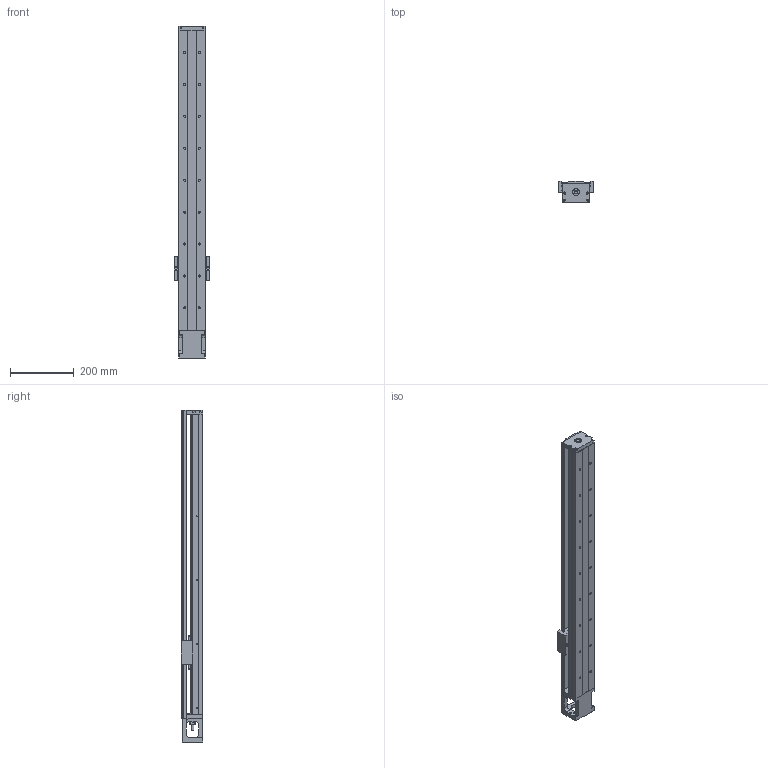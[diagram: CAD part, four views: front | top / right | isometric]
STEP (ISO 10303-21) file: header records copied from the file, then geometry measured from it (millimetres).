
FILE_DESCRIPTION(/* description */ (''),/* implementation_level */ '2;1');
FILE_NAME(/* name */ '46L-940C.stp',/* time_stamp */ '2016-12-20T14:02:58+08:00',/* author */ (''),/* organization */ (''),/* preprocessor_version */ 'ST-DEVELOPER v11',/* originating_system */ 'SIEMENS UGS NX 6.0',/* authorisation */ '');
FILE_SCHEMA (('AUTOMOTIVE_DESIGN { 1 0 10303 214 1 1 1 1 }'));
Length unit declared in the file: millimetre
Products named in the file (1): model4
Bounding box: 112 x 68 x 1040 mm (x, y, z)
Volume: 2606743.1 mm3; surface area: 645246.5 mm2
Topology: 7 solids, 15 shells, 745 faces, 1964 edges, 1289 vertices
Faces by surface type: plane 346, cylinder 277, cone 61, bspline 53, torus 8
Full cylindrical faces by diameter (mm): 2.11 x4, 2.15 x8, 2.42 x8, 2.5 x4, 3 x6, 3.2 x4, 3.3 x12, 3.4 x4, 4 x4, 4.2 x4, 4.5 x8, 5 x14, 6 x8, 6.35 x2, 6.6 x18, 8 x1, 9.6 x1, 10 x3, 11 x18, 12 x1, 14.95 x2, 15 x1, 16 x2, 22 x3, 27.5 x1, 44 x1, 50 x1
Entity records: 33280 total; most frequent: CARTESIAN_POINT 13395, ORIENTED_EDGE 3372, DIRECTION 3293, EDGE_CURVE 1686, AXIS2_PLACEMENT_3D 1217, VERTEX_POINT 1207, EDGE_LOOP 1061, LINE 859
